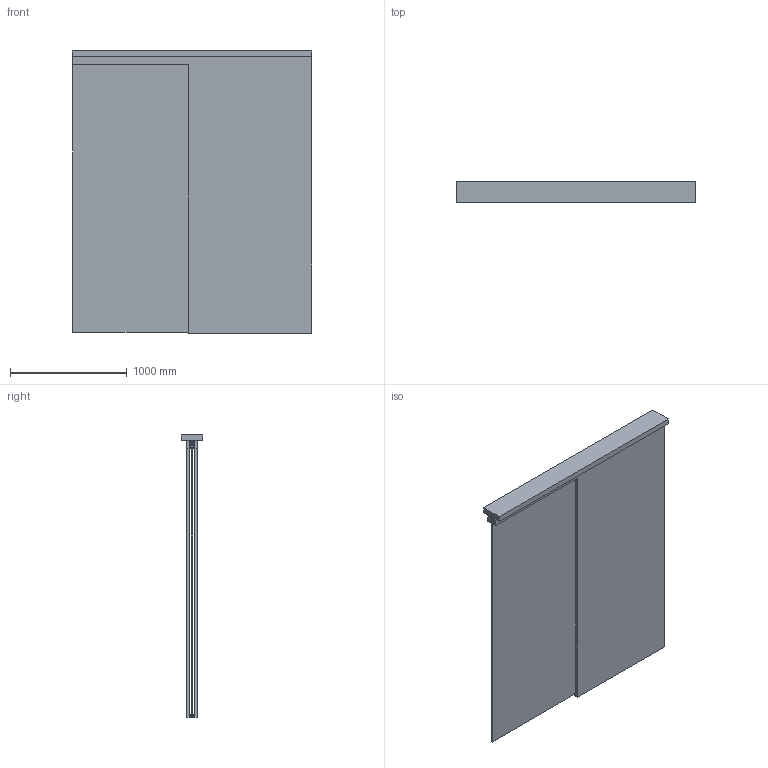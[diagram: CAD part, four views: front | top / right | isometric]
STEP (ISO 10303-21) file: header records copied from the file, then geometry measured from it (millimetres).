
FILE_DESCRIPTION(('STEP AP242'),'1');
FILE_NAME('OPO_56.047.01.stp','2026-01-14T05:19:37',(' '),(' '),'Spatial InterOp 3D',' ',' ');
FILE_SCHEMA(('AP242_MANAGED_MODEL_BASED_3D_ENGINEERING_MIM_LF {1 0 10303 442 1 1 4}'));
Length unit declared in the file: millimetre
Products named in the file (8): Zeichnung2; OPO_56.047.01_Bodenfuehrung_Glas; OPO_56.047.01_Aktivator; OPO_65.082.78; OPO_56.047.01_Laufwerk; OPO_56.047.01_Laufwerk_mit_Daempfer; OPO_65.083.42; AutoCreatedBlock_18C
Assembly tree (10 placements, depth 2):
  Zeichnung2
    OPO_56.047.01_Bodenfuehrung_Glas
    OPO_56.047.01_Aktivator  x2
    OPO_65.082.78  x2
    OPO_56.047.01_Laufwerk
    OPO_56.047.01_Laufwerk_mit_Daempfer
    OPO_65.083.42  x2
    AutoCreatedBlock_18C
Bounding box: 2050 x 188 x 2418 mm (x, y, z)
Volume: 142024857.1 mm3; surface area: 17124178.4 mm2
Topology: 74 solids, 74 shells, 1367 faces, 3462 edges, 2286 vertices
Faces by surface type: plane 759, cylinder 580, cone 28
Entity records: 38229 total; most frequent: DIRECTION 5379, CARTESIAN_POINT 5347, ORIENTED_EDGE 4950, EDGE_CURVE 2475, AXIS2_PLACEMENT_3D 1908, VERTEX_POINT 1638, LINE 1563, VECTOR 1563
